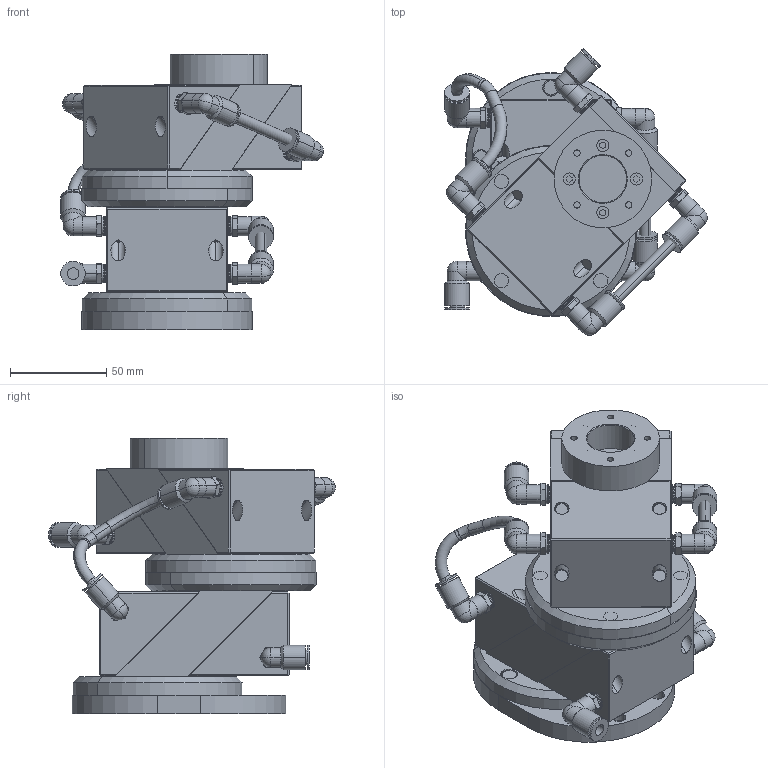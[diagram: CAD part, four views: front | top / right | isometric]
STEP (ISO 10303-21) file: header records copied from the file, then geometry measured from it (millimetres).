
FILE_DESCRIPTION (( 'STEP AP214' ), '1' );
FILE_NAME ('BQE-19-10.6-SYN.STEP', '2017-01-06T14:57:06', ( '' ), ( '' ), 'SwSTEP 2.0', 'SolidWorks 2017', '' );
FILE_SCHEMA (( 'AUTOMOTIVE_DESIGN' ));
Length unit declared in the file: inch
Products named in the file (1): BQE-19-10.6-SYN
Bounding box: 136.53 x 149.12 x 143.26 mm (x, y, z)
Volume: 831478.6 mm3; surface area: 201802 mm2
Topology: 64 solids, 68 shells, 2099 faces, 4532 edges, 2750 vertices
Faces by surface type: cylinder 700, plane 633, cone 486, torus 208, bspline 56, sphere 16
Entity records: 62009 total; most frequent: CARTESIAN_POINT 14622, DIRECTION 10550, ORIENTED_EDGE 9032, EDGE_CURVE 4516, AXIS2_PLACEMENT_3D 4278, VERTEX_POINT 2750, EDGE_LOOP 2310, CIRCLE 2234
